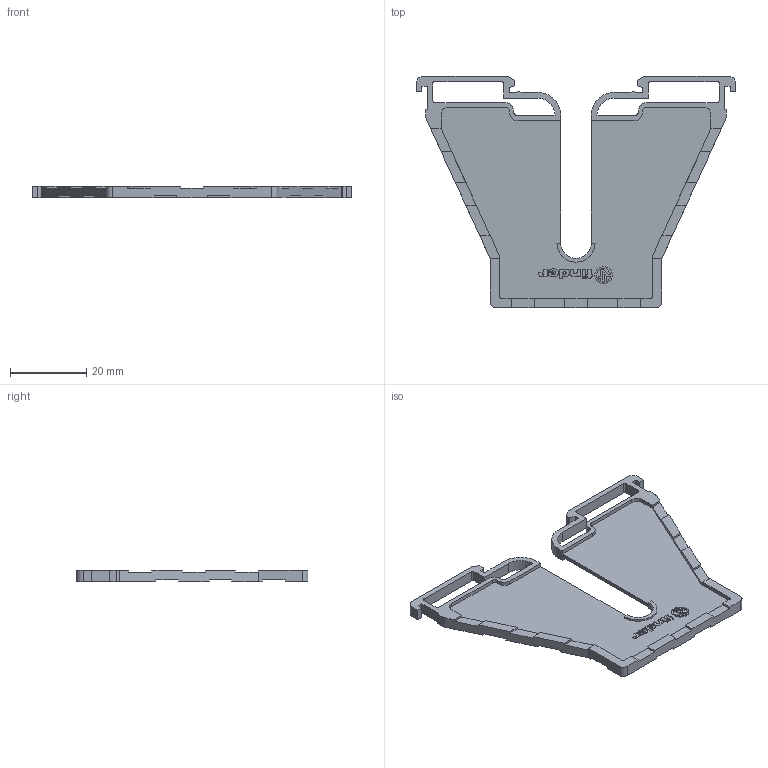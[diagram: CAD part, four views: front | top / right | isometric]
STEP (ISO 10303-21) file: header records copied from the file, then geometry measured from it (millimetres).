
FILE_DESCRIPTION(/* description */ ('Unknown'),/* implementation_level */ '2;1');
FILE_NAME(/* name */ '02003',/* time_stamp */ '2020-10-09T11:19:49+02:00',/* author */ ('Unknown'),/* organization */ ('Unknown'),/* preprocessor_version */ 'ST-DEVELOPER v16.7',/* originating_system */ 'DEX',/* authorisation */ $);
FILE_SCHEMA (('AUTOMOTIVE_DESIGN {1 0 10303 214 3 1 1}'));
Length unit declared in the file: millimetre
Products named in the file (1): 02003
Bounding box: 83.8 x 60.8 x 3 mm (x, y, z)
Surface area: 7696.3 mm2 (no closed solid volume)
Topology: 0 solids, 1 shells, 386 faces, 1084 edges, 720 vertices
Faces by surface type: plane 302, cylinder 68, bspline 16
Entity records: 12942 total; most frequent: CARTESIAN_POINT 2963, ORIENTED_EDGE 2148, DIRECTION 1904, EDGE_CURVE 1084, LINE 898, VECTOR 898, VERTEX_POINT 720, AXIS2_PLACEMENT_3D 503
